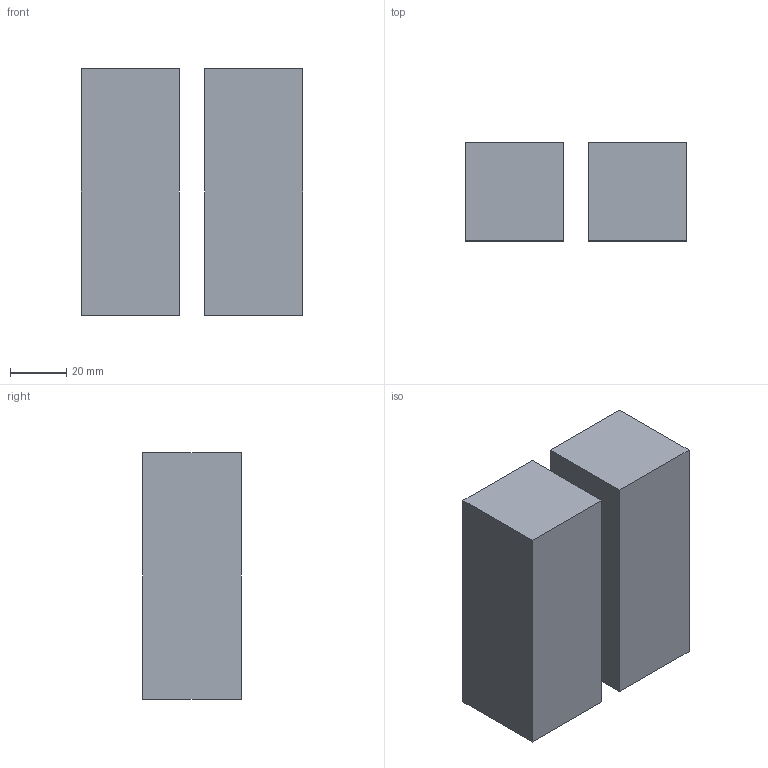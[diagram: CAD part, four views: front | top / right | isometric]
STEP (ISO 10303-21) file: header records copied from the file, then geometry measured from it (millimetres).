
FILE_DESCRIPTION(('Open CASCADE Model'),'2;1');
FILE_NAME('tubes','2026-08-12T02:42:45',('Author'),('Open CASCADE'), 'Open CASCADE STEP processor 7.9','build123d','Unknown');
FILE_SCHEMA(('AUTOMOTIVE_DESIGN { 1 0 10303 214 1 1 1 1 }'));
Length unit declared in the file: millimetre
Products named in the file (3): tubes; COMPOUND
Assembly tree (2 placements, depth 2):
  tubes
    COMPOUND
    COMPOUND
Bounding box: 79 x 35 x 88 mm (x, y, z)
Volume: 215600 mm3; surface area: 29540 mm2
Topology: 2 solids, 2 shells, 12 faces, 24 edges, 16 vertices
Faces by surface type: plane 12
Entity records: 664 total; most frequent: CARTESIAN_POINT 103, DIRECTION 102, LINE 72, VECTOR 72, ORIENTED_EDGE 48, PCURVE 48, DEFINITIONAL_REPRESENTATION 48, EDGE_CURVE 24
